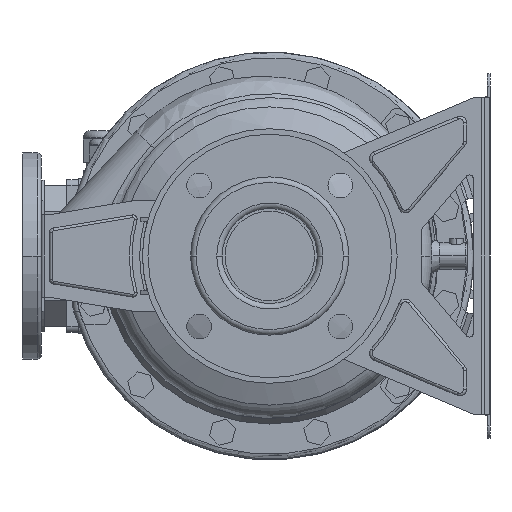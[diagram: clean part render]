
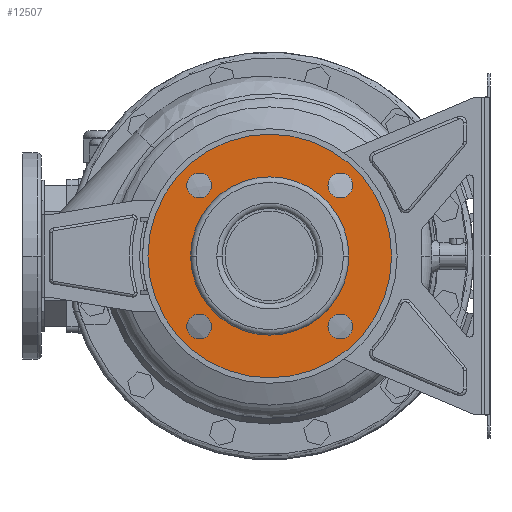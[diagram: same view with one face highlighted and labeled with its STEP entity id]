
A CAD part, left-side view. The second image highlights one B-rep face of the part: STEP entity #12507.
In plain terms, the highlighted planar face has unit normal (-1, 0, 0).
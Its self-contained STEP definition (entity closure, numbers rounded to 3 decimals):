
#11824=CARTESIAN_POINT('',(12.,0.,0.));
#11825=DIRECTION('',(1.,0.,0.));
#11826=DIRECTION('',(0.,-1.,0.));
#11827=AXIS2_PLACEMENT_3D('',#11824,#11825,#11826);
#11832=CARTESIAN_POINT('',(12.,0.,0.));
#11833=DIRECTION('',(1.,0.,0.));
#11834=DIRECTION('',(0.,1.,0.));
#11835=AXIS2_PLACEMENT_3D('',#11832,#11833,#11834);
#11840=CARTESIAN_POINT('',(12.,0.,0.));
#11841=DIRECTION('',(-1.,0.,0.));
#11842=DIRECTION('',(0.,-1.,0.));
#11843=AXIS2_PLACEMENT_3D('',#11840,#11841,#11842);
#11848=CARTESIAN_POINT('',(12.,0.,0.));
#11849=DIRECTION('',(-1.,0.,0.));
#11850=DIRECTION('',(0.,1.,0.));
#11851=AXIS2_PLACEMENT_3D('',#11848,#11849,#11850);
#11856=CARTESIAN_POINT('',(12.,-51.265,51.265));
#11857=DIRECTION('',(-1.,0.,0.));
#11858=DIRECTION('',(0.,-1.,0.));
#11859=AXIS2_PLACEMENT_3D('',#11856,#11857,#11858);
#11864=CARTESIAN_POINT('',(12.,-51.265,51.265));
#11865=DIRECTION('',(-1.,0.,0.));
#11866=DIRECTION('',(0.,1.,0.));
#11867=AXIS2_PLACEMENT_3D('',#11864,#11865,#11866);
#11872=CARTESIAN_POINT('',(12.,-51.265,-51.265));
#11873=DIRECTION('',(-1.,0.,0.));
#11874=DIRECTION('',(0.,0.,-1.));
#11875=AXIS2_PLACEMENT_3D('',#11872,#11873,#11874);
#11880=CARTESIAN_POINT('',(12.,-51.265,-51.265));
#11881=DIRECTION('',(-1.,0.,0.));
#11882=DIRECTION('',(0.,0.,1.));
#11883=AXIS2_PLACEMENT_3D('',#11880,#11881,#11882);
#11888=CARTESIAN_POINT('',(12.,51.265,-51.265));
#11889=DIRECTION('',(-1.,0.,0.));
#11890=DIRECTION('',(0.,1.,0.));
#11891=AXIS2_PLACEMENT_3D('',#11888,#11889,#11890);
#11896=CARTESIAN_POINT('',(12.,51.265,-51.265));
#11897=DIRECTION('',(-1.,0.,0.));
#11898=DIRECTION('',(0.,-1.,0.));
#11899=AXIS2_PLACEMENT_3D('',#11896,#11897,#11898);
#11904=CARTESIAN_POINT('',(12.,51.265,51.265));
#11905=DIRECTION('',(-1.,0.,0.));
#11906=DIRECTION('',(0.,0.,1.));
#11907=AXIS2_PLACEMENT_3D('',#11904,#11905,#11906);
#11912=CARTESIAN_POINT('',(12.,51.265,51.265));
#11913=DIRECTION('',(-1.,0.,0.));
#11914=DIRECTION('',(0.,0.,-1.));
#11915=AXIS2_PLACEMENT_3D('',#11912,#11913,#11914);
#12146=CARTESIAN_POINT('',(12.,88.5,0.));
#12147=VERTEX_POINT('',#12146);
#12148=CARTESIAN_POINT('',(12.,-88.5,0.));
#12149=VERTEX_POINT('',#12148);
#12150=CARTESIAN_POINT('',(12.,-57.5,0.));
#12151=CARTESIAN_POINT('',(12.,57.5,0.));
#12152=VERTEX_POINT('',#12150);
#12153=VERTEX_POINT('',#12151);
#12154=CARTESIAN_POINT('',(12.,-60.265,51.265));
#12155=CARTESIAN_POINT('',(12.,-42.265,51.265));
#12156=VERTEX_POINT('',#12154);
#12157=VERTEX_POINT('',#12155);
#12158=CARTESIAN_POINT('',(12.,-51.265,-60.265));
#12159=CARTESIAN_POINT('',(12.,-51.265,-42.265));
#12160=VERTEX_POINT('',#12158);
#12161=VERTEX_POINT('',#12159);
#12162=CARTESIAN_POINT('',(12.,60.265,-51.265));
#12163=CARTESIAN_POINT('',(12.,42.265,-51.265));
#12164=VERTEX_POINT('',#12162);
#12165=VERTEX_POINT('',#12163);
#12166=CARTESIAN_POINT('',(12.,51.265,60.265));
#12167=CARTESIAN_POINT('',(12.,51.265,42.265));
#12168=VERTEX_POINT('',#12166);
#12169=VERTEX_POINT('',#12167);
#12468=CARTESIAN_POINT('',(12.,0.,0.));
#12469=DIRECTION('',(1.,0.,0.));
#12470=DIRECTION('',(0.,-1.,0.));
#12471=AXIS2_PLACEMENT_3D('',#12468,#12469,#12470);
#12472=PLANE('',#12471);
#12473=ORIENTED_EDGE('',*,*,#12461,.T.);
#12474=ORIENTED_EDGE('',*,*,#12450,.T.);
#12475=EDGE_LOOP('',(#12473,#12474));
#12476=FACE_OUTER_BOUND('',#12475,.F.);
#12478=ORIENTED_EDGE('',*,*,#12477,.T.);
#12480=ORIENTED_EDGE('',*,*,#12479,.T.);
#12481=EDGE_LOOP('',(#12478,#12480));
#12482=FACE_BOUND('',#12481,.F.);
#12484=ORIENTED_EDGE('',*,*,#12483,.T.);
#12486=ORIENTED_EDGE('',*,*,#12485,.T.);
#12487=EDGE_LOOP('',(#12484,#12486));
#12488=FACE_BOUND('',#12487,.F.);
#12490=ORIENTED_EDGE('',*,*,#12489,.T.);
#12492=ORIENTED_EDGE('',*,*,#12491,.T.);
#12493=EDGE_LOOP('',(#12490,#12492));
#12494=FACE_BOUND('',#12493,.F.);
#12496=ORIENTED_EDGE('',*,*,#12495,.T.);
#12498=ORIENTED_EDGE('',*,*,#12497,.T.);
#12499=EDGE_LOOP('',(#12496,#12498));
#12500=FACE_BOUND('',#12499,.F.);
#12502=ORIENTED_EDGE('',*,*,#12501,.T.);
#12504=ORIENTED_EDGE('',*,*,#12503,.T.);
#12505=EDGE_LOOP('',(#12502,#12504));
#12506=FACE_BOUND('',#12505,.F.);
#11828=CIRCLE('',#11827,88.5);
#11836=CIRCLE('',#11835,88.5);
#11844=CIRCLE('',#11843,57.5);
#11852=CIRCLE('',#11851,57.5);
#11860=CIRCLE('',#11859,9.);
#11868=CIRCLE('',#11867,9.);
#11876=CIRCLE('',#11875,9.);
#11884=CIRCLE('',#11883,9.);
#11892=CIRCLE('',#11891,9.);
#11900=CIRCLE('',#11899,9.);
#11908=CIRCLE('',#11907,9.);
#11916=CIRCLE('',#11915,9.);
#12450=EDGE_CURVE('',#12147,#12149,#11836,.T.);
#12461=EDGE_CURVE('',#12149,#12147,#11828,.T.);
#12477=EDGE_CURVE('',#12152,#12153,#11844,.T.);
#12479=EDGE_CURVE('',#12153,#12152,#11852,.T.);
#12483=EDGE_CURVE('',#12156,#12157,#11860,.T.);
#12485=EDGE_CURVE('',#12157,#12156,#11868,.T.);
#12489=EDGE_CURVE('',#12160,#12161,#11876,.T.);
#12491=EDGE_CURVE('',#12161,#12160,#11884,.T.);
#12495=EDGE_CURVE('',#12164,#12165,#11892,.T.);
#12497=EDGE_CURVE('',#12165,#12164,#11900,.T.);
#12501=EDGE_CURVE('',#12168,#12169,#11908,.T.);
#12503=EDGE_CURVE('',#12169,#12168,#11916,.T.);
#12507=ADVANCED_FACE('',(#12476,#12482,#12488,#12494,#12500,#12506),#12472,.F.);
